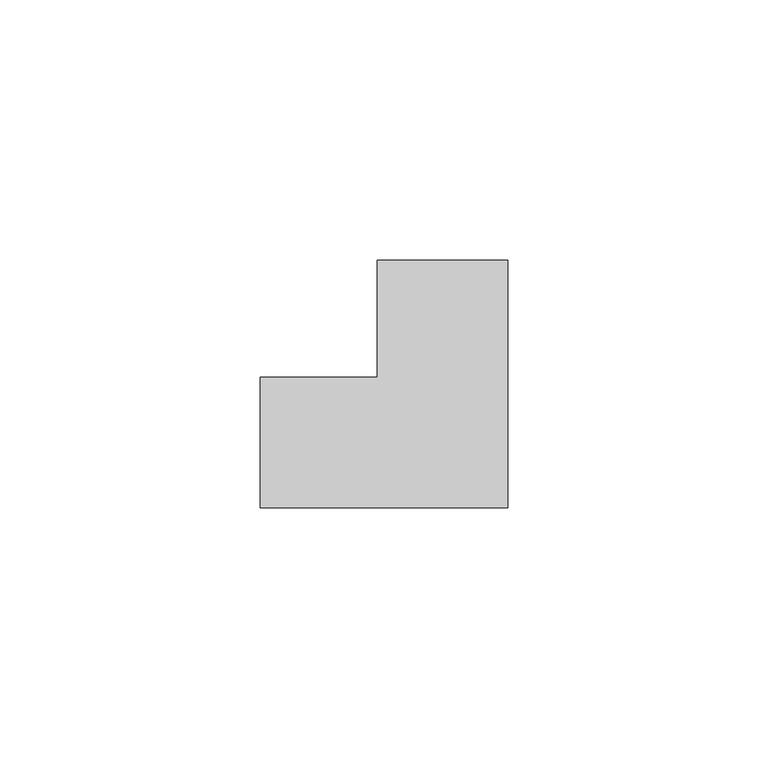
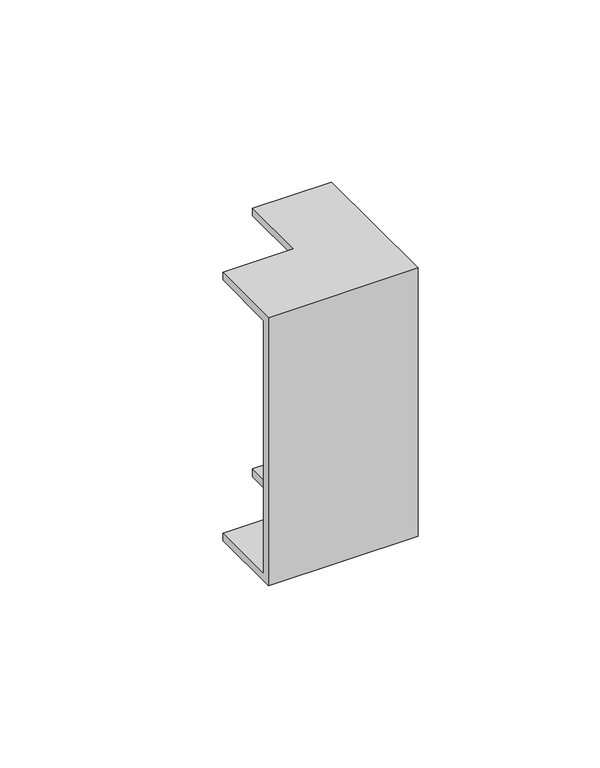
"""IFC4 building model written with IfcOpenShell, lengths in millimetres: cable carrier fitting geometry, КНС_УголВнутренний_ILF_DKC : Белый."""

from ifc_helpers import new_model, si_unit, origin, place, context, project, spatial, faceted_brep, source, transform, mapped, element, save


def cable_carrier_fitting_4f6a67a4(model_context):
    return source(origin(), model_context, "Body", "Brep", [
        faceted_brep([(-35.0, -12.5, 45.0), (-35.0, 12.5, 45.0), (-35.0, 12.5, 42.46), (-35.0, -9.96, 42.46), (-35.0, -9.96, -42.46), (-35.0, 12.5, -42.46), (-35.0, 12.5, -45.0), (-35.0, -12.5, -45.0), (12.5, 35.0, 45.0), (12.5, 35.0, -45.0), (-12.5, 35.0, -45.0), (-12.5, 35.0, -42.46), (9.96, 35.0, -42.46), (9.96, 35.0, 42.46), (-12.5, 35.0, 42.46), (-12.5, 35.0, 45.0), (12.5, -12.5, 45.0), (-12.5, 12.5, 45.0), (-12.5, 12.5, 42.46), (9.96, -9.96, 42.46), (9.96, -9.96, -42.46), (-12.5, 12.5, -42.46), (-12.5, 12.5, -45.0), (12.5, -12.5, -45.0)], [[[0, 1, 2, 3, 4, 5, 6, 7]], [[8, 9, 10, 11, 12, 13, 14, 15]], [[1, 0, 16, 8, 15, 17]], [[2, 1, 17, 18]], [[3, 2, 18, 14, 13, 19]], [[4, 3, 19, 20]], [[5, 4, 20, 12, 11, 21]], [[6, 5, 21, 22]], [[7, 6, 22, 10, 9, 23]], [[0, 7, 23, 16]], [[18, 17, 15, 14]], [[20, 19, 13, 12]], [[22, 21, 11, 10]], [[16, 23, 9, 8]]]),
    ])


if __name__ == "__main__":
    model = new_model("IFC4")
    model_context = context("Model", 3, world=origin())
    ifc_project = project(units=[si_unit("LENGTHUNIT", "METRE", prefix="MILLI")], contexts=[model_context])
    site = spatial("IfcSite", under=ifc_project)
    building = spatial("IfcBuilding", under=site)
    placement = place(None, origin())
    cable_carrier_fitting_shape = cable_carrier_fitting_4f6a67a4(model_context)
    element("IfcCableCarrierFitting", 1, ObjectType="КНС_УголВнутренний_ILF_DKC : Белый", at=placement, inside=building, context=model_context, shape_type="MappedRepresentation", body=[
        mapped(cable_carrier_fitting_shape, transform((0.0, 0.0, 0.0), x_axis=(1.0, 0.0, 0.0), y_axis=(0.0, 1.0, 0.0), z_axis=(0.0, 0.0, 1.0))),
    ])
    save(model, "model.ifc")
